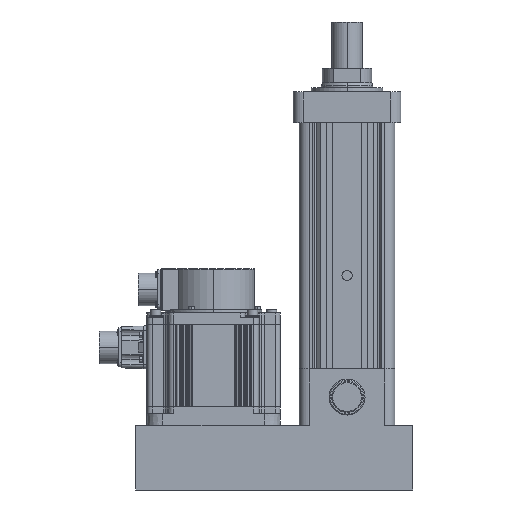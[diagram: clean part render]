
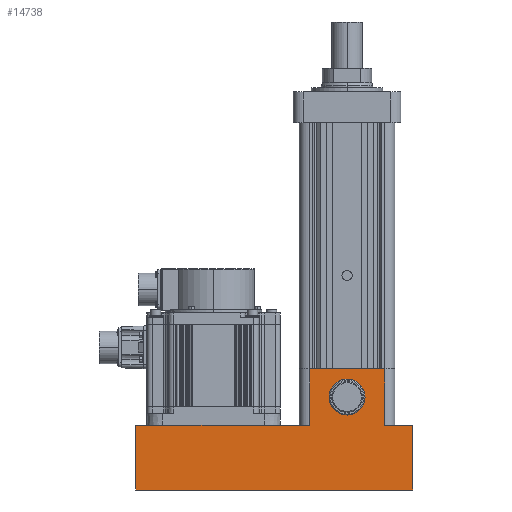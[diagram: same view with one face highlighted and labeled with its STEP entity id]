
A CAD part, left-side view. The second image highlights one B-rep face of the part: STEP entity #14738.
In plain terms, the highlighted planar face has unit normal (-1, 0, 0).
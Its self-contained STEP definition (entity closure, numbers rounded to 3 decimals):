
#549 = LINE ( 'NONE', #21429, #25982 ) ;
#564 = VERTEX_POINT ( 'NONE', #20959 ) ;
#1170 = VERTEX_POINT ( 'NONE', #4659 ) ;
#1229 = CARTESIAN_POINT ( 'NONE',  ( -67.5, 36.5, 0. ) ) ;
#1440 = VERTEX_POINT ( 'NONE', #21125 ) ;
#1571 = LINE ( 'NONE', #18504, #25659 ) ;
#1997 = VERTEX_POINT ( 'NONE', #19188 ) ;
#3092 = ORIENTED_EDGE ( 'NONE', *, *, #15838, .T. ) ;
#3599 = PLANE ( 'NONE',  #21045 ) ;
#4285 = CARTESIAN_POINT ( 'NONE',  ( -67.5, -36.5, -55. ) ) ;
#4659 = CARTESIAN_POINT ( 'NONE',  ( -67.5, -64., -118. ) ) ;
#4908 = VERTEX_POINT ( 'NONE', #10766 ) ;
#5336 = EDGE_CURVE ( 'NONE', #1170, #19379, #1571, .T. ) ;
#5590 = EDGE_CURVE ( 'NONE', #1440, #564, #28031, .T. ) ;
#5990 = ORIENTED_EDGE ( 'NONE', *, *, #18694, .T. ) ;
#6460 = DIRECTION ( 'NONE',  ( 0., 0., 1. ) ) ;
#6952 = CARTESIAN_POINT ( 'NONE',  ( -67.5, 0., -27.5 ) ) ;
#7155 = ORIENTED_EDGE ( 'NONE', *, *, #18821, .T. ) ;
#7188 = VECTOR ( 'NONE', #19185, 1000. ) ;
#7204 = CIRCLE ( 'NONE', #23338, 17.5 ) ;
#7363 = ORIENTED_EDGE ( 'NONE', *, *, #5336, .F. ) ;
#7554 = CARTESIAN_POINT ( 'NONE',  ( -67.5, -64., -55. ) ) ;
#7877 = DIRECTION ( 'NONE',  ( 0., 1., 0. ) ) ;
#7949 = EDGE_CURVE ( 'NONE', #21590, #17301, #7204, .T. ) ;
#8050 = VECTOR ( 'NONE', #11874, 1000. ) ;
#8252 = VECTOR ( 'NONE', #6460, 1000. ) ;
#8456 = CARTESIAN_POINT ( 'NONE',  ( -67.5, 206., -118. ) ) ;
#8910 = ORIENTED_EDGE ( 'NONE', *, *, #7949, .F. ) ;
#9047 = DIRECTION ( 'NONE',  ( -1., 0., 0. ) ) ;
#9741 = DIRECTION ( 'NONE',  ( -1., 0., 0. ) ) ;
#10241 = VECTOR ( 'NONE', #24063, 1000. ) ;
#10766 = CARTESIAN_POINT ( 'NONE',  ( -67.5, -36.5, -55. ) ) ;
#11785 = CARTESIAN_POINT ( 'NONE',  ( -67.5, -64., -55. ) ) ;
#11874 = DIRECTION ( 'NONE',  ( 0., 1., 0. ) ) ;
#12475 = CARTESIAN_POINT ( 'NONE',  ( -67.5, -64., -118. ) ) ;
#12617 = ORIENTED_EDGE ( 'NONE', *, *, #21823, .F. ) ;
#13017 = CARTESIAN_POINT ( 'NONE',  ( -67.5, 0., -10. ) ) ;
#13392 = DIRECTION ( 'NONE',  ( 0., 0., -1. ) ) ;
#14327 = EDGE_CURVE ( 'NONE', #1997, #564, #549, .T. ) ;
#14398 = CARTESIAN_POINT ( 'NONE',  ( -67.5, 206., -118. ) ) ;
#14445 = CIRCLE ( 'NONE', #14499, 17.5 ) ;
#14499 = AXIS2_PLACEMENT_3D ( 'NONE', #18273, #9741, #18538 ) ;
#14738 = ADVANCED_FACE ( 'NONE', ( #27997, #26314 ), #3599, .F. ) ;
#15838 = EDGE_CURVE ( 'NONE', #1997, #21217, #18237, .T. ) ;
#16129 = EDGE_LOOP ( 'NONE', ( #8910, #12617 ) ) ;
#16502 = VECTOR ( 'NONE', #7877, 1000. ) ;
#16849 = DIRECTION ( 'NONE',  ( 0., 0., -1. ) ) ;
#16996 = LINE ( 'NONE', #14398, #25822 ) ;
#17301 = VERTEX_POINT ( 'NONE', #13017 ) ;
#17496 = ORIENTED_EDGE ( 'NONE', *, *, #14327, .F. ) ;
#18213 = CARTESIAN_POINT ( 'NONE',  ( -67.5, 206., -55. ) ) ;
#18237 = LINE ( 'NONE', #11785, #8050 ) ;
#18273 = CARTESIAN_POINT ( 'NONE',  ( -67.5, 0., -27.5 ) ) ;
#18504 = CARTESIAN_POINT ( 'NONE',  ( -67.5, -64., -118. ) ) ;
#18538 = DIRECTION ( 'NONE',  ( 0., 0., -1. ) ) ;
#18694 = EDGE_CURVE ( 'NONE', #1170, #26852, #24828, .T. ) ;
#18821 = EDGE_CURVE ( 'NONE', #26852, #4908, #22454, .T. ) ;
#19185 = DIRECTION ( 'NONE',  ( 0., 0., 1. ) ) ;
#19188 = CARTESIAN_POINT ( 'NONE',  ( -67.5, 36.5, -55. ) ) ;
#19379 = VERTEX_POINT ( 'NONE', #8456 ) ;
#19702 = DIRECTION ( 'NONE',  ( 0., 0., 1. ) ) ;
#19839 = EDGE_CURVE ( 'NONE', #19379, #21217, #16996, .T. ) ;
#20934 = CARTESIAN_POINT ( 'NONE',  ( -67.5, 36.5, -55. ) ) ;
#20959 = CARTESIAN_POINT ( 'NONE',  ( -67.5, 36.5, 0. ) ) ;
#21027 = DIRECTION ( 'NONE',  ( 1., 0., 0. ) ) ;
#21045 = AXIS2_PLACEMENT_3D ( 'NONE', #20934, #21027, #16849 ) ;
#21125 = CARTESIAN_POINT ( 'NONE',  ( -67.5, -36.5, 0. ) ) ;
#21217 = VERTEX_POINT ( 'NONE', #18213 ) ;
#21429 = CARTESIAN_POINT ( 'NONE',  ( -67.5, 36.5, -55. ) ) ;
#21554 = ORIENTED_EDGE ( 'NONE', *, *, #24489, .T. ) ;
#21590 = VERTEX_POINT ( 'NONE', #21976 ) ;
#21756 = CARTESIAN_POINT ( 'NONE',  ( -67.5, -64., -55. ) ) ;
#21823 = EDGE_CURVE ( 'NONE', #17301, #21590, #14445, .T. ) ;
#21976 = CARTESIAN_POINT ( 'NONE',  ( -67.5, 0., -45. ) ) ;
#22454 = LINE ( 'NONE', #21756, #10241 ) ;
#22516 = LINE ( 'NONE', #4285, #8252 ) ;
#22875 = DIRECTION ( 'NONE',  ( 0., 1., 0. ) ) ;
#22968 = ORIENTED_EDGE ( 'NONE', *, *, #19839, .F. ) ;
#23222 = DIRECTION ( 'NONE',  ( 0., 0., 1. ) ) ;
#23338 = AXIS2_PLACEMENT_3D ( 'NONE', #6952, #9047, #13392 ) ;
#24063 = DIRECTION ( 'NONE',  ( 0., 1., 0. ) ) ;
#24477 = ORIENTED_EDGE ( 'NONE', *, *, #5590, .T. ) ;
#24489 = EDGE_CURVE ( 'NONE', #4908, #1440, #22516, .T. ) ;
#24828 = LINE ( 'NONE', #12475, #7188 ) ;
#25345 = EDGE_LOOP ( 'NONE', ( #24477, #17496, #3092, #22968, #7363, #5990, #7155, #21554 ) ) ;
#25659 = VECTOR ( 'NONE', #22875, 1000. ) ;
#25822 = VECTOR ( 'NONE', #23222, 1000. ) ;
#25982 = VECTOR ( 'NONE', #19702, 1000. ) ;
#26314 = FACE_OUTER_BOUND ( 'NONE', #25345, .T. ) ;
#26852 = VERTEX_POINT ( 'NONE', #7554 ) ;
#27997 = FACE_BOUND ( 'NONE', #16129, .T. ) ;
#28031 = LINE ( 'NONE', #1229, #16502 ) ;
